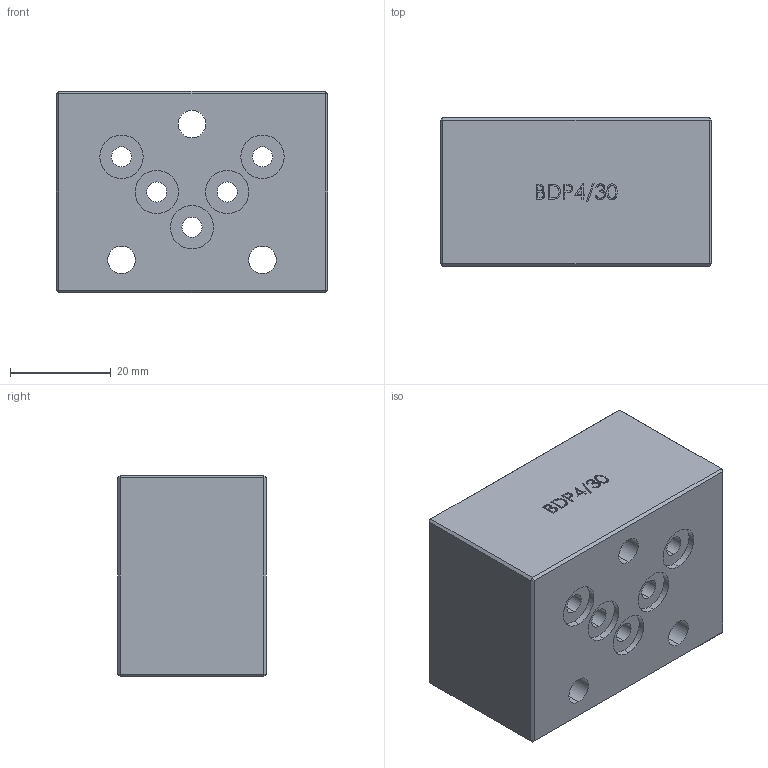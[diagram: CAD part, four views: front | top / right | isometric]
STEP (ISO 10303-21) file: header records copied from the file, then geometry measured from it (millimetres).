
FILE_DESCRIPTION (( 'STEP AP214' ), '1' );
FILE_NAME ('BDP4_30.STEP', '2017-04-26T06:24:19', ( '' ), ( '' ), 'SwSTEP 2.0', 'SolidWorks 2016', '' );
FILE_SCHEMA (( 'AUTOMOTIVE_DESIGN' ));
Length unit declared in the file: millimetre
Products named in the file (1): BDP4_30
Bounding box: 54 x 29.5 x 40 mm (x, y, z)
Volume: 59400 mm3; surface area: 12977.7 mm2
Topology: 1 solids, 1 shells, 158 faces, 390 edges, 252 vertices
Faces by surface type: plane 87, bspline 45, cylinder 26
Entity records: 7294 total; most frequent: CARTESIAN_POINT 3750, ORIENTED_EDGE 780, DIRECTION 580, EDGE_CURVE 390, VERTEX_POINT 252, LINE 248, VECTOR 248, EDGE_LOOP 192
